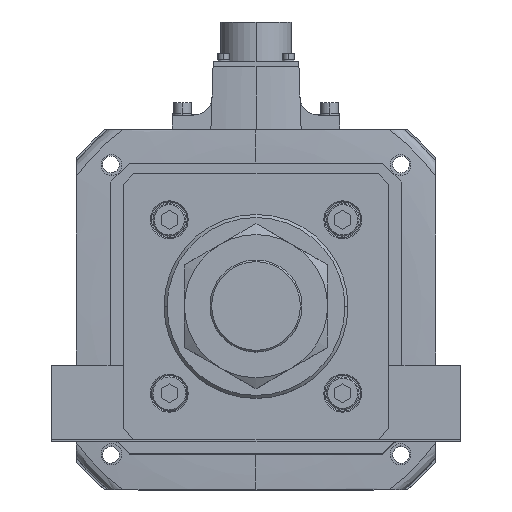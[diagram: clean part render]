
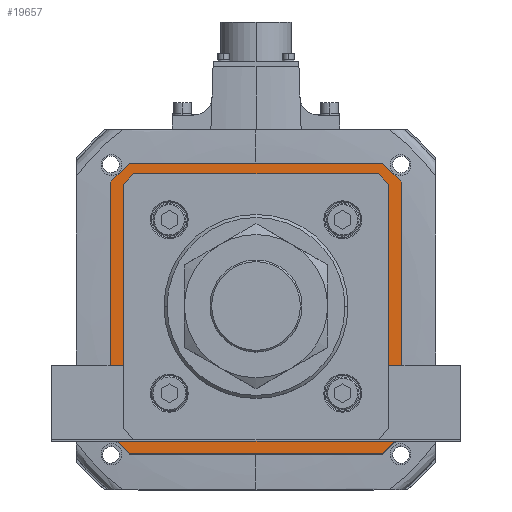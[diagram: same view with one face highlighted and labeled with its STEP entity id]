
A CAD part, top view. The second image highlights one B-rep face of the part: STEP entity #19657.
In plain terms, the highlighted planar face has unit normal (0, 0, 1).
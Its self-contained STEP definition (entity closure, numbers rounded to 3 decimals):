
#269 = AXIS2_PLACEMENT_3D ( 'NONE', #15586, #24012, #54220 ) ;
#451 = DIRECTION ( 'NONE',  ( 0.707, -0.707, 0. ) ) ;
#1502 = VECTOR ( 'NONE', #24206, 1000. ) ;
#1694 = VERTEX_POINT ( 'NONE', #16852 ) ;
#2224 = EDGE_CURVE ( 'NONE', #36391, #42274, #26494, .T. ) ;
#2447 = ORIENTED_EDGE ( 'NONE', *, *, #13922, .T. ) ;
#2842 = VECTOR ( 'NONE', #5539, 1000. ) ;
#3601 = CARTESIAN_POINT ( 'NONE',  ( 71., 62., -142. ) ) ;
#4643 = VERTEX_POINT ( 'NONE', #48553 ) ;
#5539 = DIRECTION ( 'NONE',  ( 1., 0., 0. ) ) ;
#6812 = PLANE ( 'NONE',  #269 ) ;
#7116 = VECTOR ( 'NONE', #23989, 1000. ) ;
#7334 = VECTOR ( 'NONE', #38130, 1000. ) ;
#8604 = CARTESIAN_POINT ( 'NONE',  ( 62., 71., -142. ) ) ;
#8882 = CARTESIAN_POINT ( 'NONE',  ( 58.793, -63., -142. ) ) ;
#8946 = CARTESIAN_POINT ( 'NONE',  ( 63., 58.793, -142. ) ) ;
#9208 = CARTESIAN_POINT ( 'NONE',  ( 60.896, 60.896, -142. ) ) ;
#9679 = ORIENTED_EDGE ( 'NONE', *, *, #25392, .F. ) ;
#9778 = ORIENTED_EDGE ( 'NONE', *, *, #30597, .F. ) ;
#9831 = CARTESIAN_POINT ( 'NONE',  ( 0., -63., -142. ) ) ;
#9961 = CARTESIAN_POINT ( 'NONE',  ( -63., 58.793, -142. ) ) ;
#10917 = ORIENTED_EDGE ( 'NONE', *, *, #52897, .F. ) ;
#11582 = ORIENTED_EDGE ( 'NONE', *, *, #29466, .T. ) ;
#11628 = CARTESIAN_POINT ( 'NONE',  ( 71., 62., -142. ) ) ;
#11793 = VECTOR ( 'NONE', #41864, 1000. ) ;
#12290 = LINE ( 'NONE', #38637, #23676 ) ;
#12611 = ORIENTED_EDGE ( 'NONE', *, *, #41899, .F. ) ;
#12749 = VECTOR ( 'NONE', #22115, 1000. ) ;
#13024 = EDGE_CURVE ( 'NONE', #49352, #31542, #54391, .T. ) ;
#13603 = LINE ( 'NONE', #31117, #2842 ) ;
#13922 = EDGE_CURVE ( 'NONE', #40892, #46081, #49007, .T. ) ;
#14226 = CARTESIAN_POINT ( 'NONE',  ( -62., -71., -142. ) ) ;
#14337 = VERTEX_POINT ( 'NONE', #51094 ) ;
#15378 = VECTOR ( 'NONE', #25193, 1000. ) ;
#15586 = CARTESIAN_POINT ( 'NONE',  ( 0., 0., -142. ) ) ;
#16130 = EDGE_CURVE ( 'NONE', #4643, #24301, #36648, .T. ) ;
#16719 = LINE ( 'NONE', #8604, #7334 ) ;
#16778 = EDGE_CURVE ( 'NONE', #38080, #36391, #53935, .T. ) ;
#16852 = CARTESIAN_POINT ( 'NONE',  ( -58.793, 63., -142. ) ) ;
#17428 = CARTESIAN_POINT ( 'NONE',  ( -62., 71., -142. ) ) ;
#17892 = DIRECTION ( 'NONE',  ( -0.707, -0.707, 0. ) ) ;
#18062 = DIRECTION ( 'NONE',  ( -1., 0., 0. ) ) ;
#18392 = VECTOR ( 'NONE', #49677, 1000. ) ;
#19135 = CARTESIAN_POINT ( 'NONE',  ( 71., 62., -142. ) ) ;
#19657 = ADVANCED_FACE ( 'NONE', ( #25029, #28359 ), #6812, .T. ) ;
#20666 = ORIENTED_EDGE ( 'NONE', *, *, #2224, .T. ) ;
#22115 = DIRECTION ( 'NONE',  ( -0.707, 0.707, 0. ) ) ;
#22117 = EDGE_CURVE ( 'NONE', #34292, #4643, #53527, .T. ) ;
#22242 = ORIENTED_EDGE ( 'NONE', *, *, #44418, .F. ) ;
#22682 = CARTESIAN_POINT ( 'NONE',  ( -58.793, -63., -142. ) ) ;
#22992 = CARTESIAN_POINT ( 'NONE',  ( -60.896, 60.896, -142. ) ) ;
#23623 = CARTESIAN_POINT ( 'NONE',  ( -71., 62., -142. ) ) ;
#23625 = VECTOR ( 'NONE', #18062, 1000. ) ;
#23676 = VECTOR ( 'NONE', #17892, 1000. ) ;
#23828 = VERTEX_POINT ( 'NONE', #33215 ) ;
#23989 = DIRECTION ( 'NONE',  ( 0.707, -0.707, 0. ) ) ;
#24012 = DIRECTION ( 'NONE',  ( 0., 0., 1. ) ) ;
#24140 = LINE ( 'NONE', #26403, #12749 ) ;
#24206 = DIRECTION ( 'NONE',  ( 0.707, 0.707, 0. ) ) ;
#24301 = VERTEX_POINT ( 'NONE', #14226 ) ;
#25029 = FACE_BOUND ( 'NONE', #36812, .T. ) ;
#25193 = DIRECTION ( 'NONE',  ( 0., 1., 0. ) ) ;
#25392 = EDGE_CURVE ( 'NONE', #23828, #27821, #28519, .T. ) ;
#25871 = VECTOR ( 'NONE', #451, 1000. ) ;
#26045 = LINE ( 'NONE', #29860, #15378 ) ;
#26256 = LINE ( 'NONE', #45066, #1502 ) ;
#26403 = CARTESIAN_POINT ( 'NONE',  ( -60.896, -60.896, -142. ) ) ;
#26494 = LINE ( 'NONE', #33046, #18392 ) ;
#26548 = EDGE_CURVE ( 'NONE', #31542, #1694, #28413, .T. ) ;
#27573 = VERTEX_POINT ( 'NONE', #23623 ) ;
#27821 = VERTEX_POINT ( 'NONE', #3601 ) ;
#28100 = ORIENTED_EDGE ( 'NONE', *, *, #13024, .T. ) ;
#28359 = FACE_OUTER_BOUND ( 'NONE', #41015, .T. ) ;
#28413 = LINE ( 'NONE', #22992, #43754 ) ;
#28519 = LINE ( 'NONE', #19135, #7116 ) ;
#28974 = CARTESIAN_POINT ( 'NONE',  ( -63., 0., -142. ) ) ;
#29466 = EDGE_CURVE ( 'NONE', #46081, #49352, #24140, .T. ) ;
#29860 = CARTESIAN_POINT ( 'NONE',  ( -71., 62., -142. ) ) ;
#29909 = EDGE_CURVE ( 'NONE', #53171, #23828, #16719, .T. ) ;
#30597 = EDGE_CURVE ( 'NONE', #24301, #14337, #48052, .T. ) ;
#31054 = EDGE_CURVE ( 'NONE', #1694, #38080, #13603, .T. ) ;
#31117 = CARTESIAN_POINT ( 'NONE',  ( 0., 63., -142. ) ) ;
#31542 = VERTEX_POINT ( 'NONE', #9961 ) ;
#32704 = CARTESIAN_POINT ( 'NONE',  ( 62., -71., -142. ) ) ;
#33046 = CARTESIAN_POINT ( 'NONE',  ( 63., 0., -142. ) ) ;
#33079 = DIRECTION ( 'NONE',  ( 0., 1., 0. ) ) ;
#33206 = CARTESIAN_POINT ( 'NONE',  ( 71., -62., -142. ) ) ;
#33215 = CARTESIAN_POINT ( 'NONE',  ( 62., 71., -142. ) ) ;
#33333 = DIRECTION ( 'NONE',  ( -0.707, 0.707, 0. ) ) ;
#34292 = VERTEX_POINT ( 'NONE', #46290 ) ;
#35284 = ORIENTED_EDGE ( 'NONE', *, *, #47061, .T. ) ;
#36391 = VERTEX_POINT ( 'NONE', #8946 ) ;
#36648 = LINE ( 'NONE', #32704, #52719 ) ;
#36728 = VECTOR ( 'NONE', #33333, 1000. ) ;
#36812 = EDGE_LOOP ( 'NONE', ( #20666, #35284, #2447, #11582, #28100, #38019, #44211, #50157 ) ) ;
#38019 = ORIENTED_EDGE ( 'NONE', *, *, #26548, .T. ) ;
#38080 = VERTEX_POINT ( 'NONE', #42383 ) ;
#38130 = DIRECTION ( 'NONE',  ( 1., 0., 0. ) ) ;
#38637 = CARTESIAN_POINT ( 'NONE',  ( 60.896, -60.896, -142. ) ) ;
#40294 = ORIENTED_EDGE ( 'NONE', *, *, #29909, .F. ) ;
#40892 = VERTEX_POINT ( 'NONE', #8882 ) ;
#41015 = EDGE_LOOP ( 'NONE', ( #40294, #10917, #12611, #9778, #45680, #47317, #22242, #9679 ) ) ;
#41043 = VECTOR ( 'NONE', #33079, 1000. ) ;
#41201 = DIRECTION ( 'NONE',  ( -0.707, -0.707, 0. ) ) ;
#41864 = DIRECTION ( 'NONE',  ( 0., -1., 0. ) ) ;
#41899 = EDGE_CURVE ( 'NONE', #14337, #27573, #26045, .T. ) ;
#42165 = VECTOR ( 'NONE', #41201, 1000. ) ;
#42274 = VERTEX_POINT ( 'NONE', #48669 ) ;
#42383 = CARTESIAN_POINT ( 'NONE',  ( 58.793, 63., -142. ) ) ;
#42445 = CARTESIAN_POINT ( 'NONE',  ( -62., -71., -142. ) ) ;
#43754 = VECTOR ( 'NONE', #48365, 1000. ) ;
#44211 = ORIENTED_EDGE ( 'NONE', *, *, #31054, .T. ) ;
#44418 = EDGE_CURVE ( 'NONE', #27821, #34292, #45141, .T. ) ;
#45066 = CARTESIAN_POINT ( 'NONE',  ( -62., 71., -142. ) ) ;
#45141 = LINE ( 'NONE', #11628, #11793 ) ;
#45680 = ORIENTED_EDGE ( 'NONE', *, *, #16130, .F. ) ;
#46081 = VERTEX_POINT ( 'NONE', #22682 ) ;
#46290 = CARTESIAN_POINT ( 'NONE',  ( 71., -62., -142. ) ) ;
#47061 = EDGE_CURVE ( 'NONE', #42274, #40892, #12290, .T. ) ;
#47317 = ORIENTED_EDGE ( 'NONE', *, *, #22117, .F. ) ;
#48052 = LINE ( 'NONE', #42445, #36728 ) ;
#48365 = DIRECTION ( 'NONE',  ( 0.707, 0.707, 0. ) ) ;
#48553 = CARTESIAN_POINT ( 'NONE',  ( 62., -71., -142. ) ) ;
#48669 = CARTESIAN_POINT ( 'NONE',  ( 63., -58.793, -142. ) ) ;
#49007 = LINE ( 'NONE', #9831, #23625 ) ;
#49352 = VERTEX_POINT ( 'NONE', #51139 ) ;
#49511 = DIRECTION ( 'NONE',  ( -1., 0., 0. ) ) ;
#49677 = DIRECTION ( 'NONE',  ( 0., -1., 0. ) ) ;
#50157 = ORIENTED_EDGE ( 'NONE', *, *, #16778, .T. ) ;
#51094 = CARTESIAN_POINT ( 'NONE',  ( -71., -62., -142. ) ) ;
#51139 = CARTESIAN_POINT ( 'NONE',  ( -63., -58.793, -142. ) ) ;
#52719 = VECTOR ( 'NONE', #49511, 1000. ) ;
#52897 = EDGE_CURVE ( 'NONE', #27573, #53171, #26256, .T. ) ;
#53171 = VERTEX_POINT ( 'NONE', #17428 ) ;
#53527 = LINE ( 'NONE', #33206, #42165 ) ;
#53935 = LINE ( 'NONE', #9208, #25871 ) ;
#54220 = DIRECTION ( 'NONE',  ( 1., 0., 0. ) ) ;
#54391 = LINE ( 'NONE', #28974, #41043 ) ;
